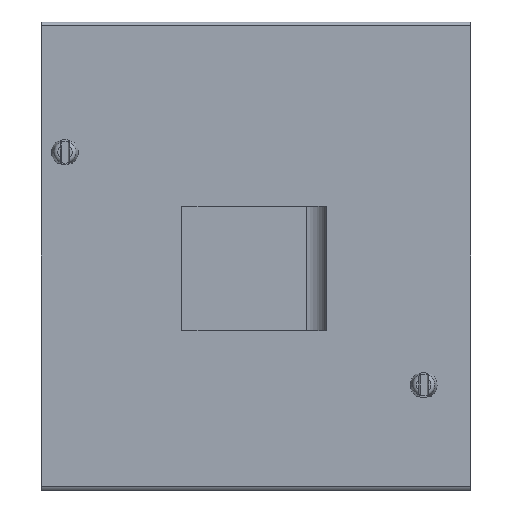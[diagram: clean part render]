
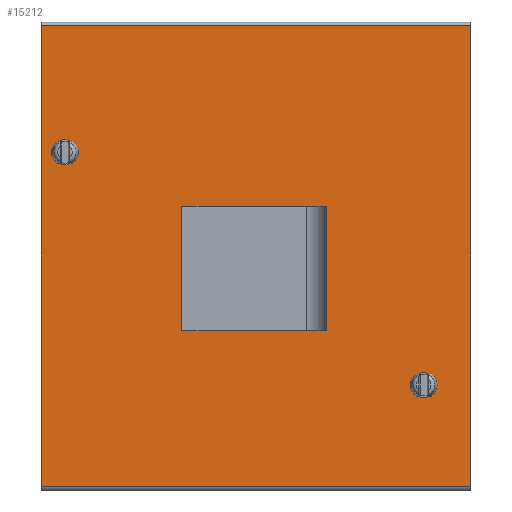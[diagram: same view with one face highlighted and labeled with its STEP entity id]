
A CAD part, front view. The second image highlights one B-rep face of the part: STEP entity #15212.
In plain terms, the highlighted planar face has unit normal (0, -1, 0).
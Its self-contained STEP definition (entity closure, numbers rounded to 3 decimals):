
#8 = CIRCLE ( 'NONE', #29682, 1.6 ) ;
#888 = EDGE_CURVE ( 'NONE', #36653, #33020, #10196, .T. ) ;
#1448 = ORIENTED_EDGE ( 'NONE', *, *, #888, .T. ) ;
#1622 = EDGE_LOOP ( 'NONE', ( #18346, #3183, #5180, #35877 ) ) ;
#1964 = EDGE_CURVE ( 'NONE', #44170, #31344, #5687, .T. ) ;
#3154 = VERTEX_POINT ( 'NONE', #31327 ) ;
#3183 = ORIENTED_EDGE ( 'NONE', *, *, #41817, .T. ) ;
#3876 = EDGE_CURVE ( 'NONE', #3154, #14674, #4245, .T. ) ;
#4226 = AXIS2_PLACEMENT_3D ( 'NONE', #32289, #28676, #15613 ) ;
#4245 = LINE ( 'NONE', #15589, #8308 ) ;
#5090 = AXIS2_PLACEMENT_3D ( 'NONE', #22644, #15885, #30511 ) ;
#5180 = ORIENTED_EDGE ( 'NONE', *, *, #42927, .F. ) ;
#5205 = CARTESIAN_POINT ( 'NONE',  ( 21.5, 0., -18.14 ) ) ;
#5687 = CIRCLE ( 'NONE', #4226, 1.6 ) ;
#7317 = DIRECTION ( 'NONE',  ( 0., 1., 0. ) ) ;
#7704 = LINE ( 'NONE', #35998, #15401 ) ;
#8308 = VECTOR ( 'NONE', #11050, 1000. ) ;
#8427 = DIRECTION ( 'NONE',  ( 1., 0., 0. ) ) ;
#9703 = DIRECTION ( 'NONE',  ( 0., 1., 0. ) ) ;
#10196 = CIRCLE ( 'NONE', #5090, 1.6 ) ;
#11028 = CARTESIAN_POINT ( 'NONE',  ( -24.5, 0., 14.9 ) ) ;
#11050 = DIRECTION ( 'NONE',  ( -1., 0., 0. ) ) ;
#11053 = CARTESIAN_POINT ( 'NONE',  ( -27.5, 0., 29.5 ) ) ;
#11800 = CARTESIAN_POINT ( 'NONE',  ( 21.5, 0., -14.94 ) ) ;
#12564 = DIRECTION ( 'NONE',  ( 0., 1., 0. ) ) ;
#12575 = ORIENTED_EDGE ( 'NONE', *, *, #15631, .T. ) ;
#14591 = CARTESIAN_POINT ( 'NONE',  ( 21.5, 0., -16.54 ) ) ;
#14674 = VERTEX_POINT ( 'NONE', #11053 ) ;
#14689 = EDGE_LOOP ( 'NONE', ( #1448, #12575 ) ) ;
#14810 = LINE ( 'NONE', #28551, #15989 ) ;
#15212 = ADVANCED_FACE ( 'NONE', ( #43928, #23417, #29956 ), #30173, .F. ) ;
#15401 = VECTOR ( 'NONE', #35774, 1000. ) ;
#15589 = CARTESIAN_POINT ( 'NONE',  ( 0., 0., 29.5 ) ) ;
#15613 = DIRECTION ( 'NONE',  ( 0., 0., 1. ) ) ;
#15631 = EDGE_CURVE ( 'NONE', #33020, #36653, #8, .T. ) ;
#15885 = DIRECTION ( 'NONE',  ( 0., 1., 0. ) ) ;
#15989 = VECTOR ( 'NONE', #8427, 1000. ) ;
#16964 = CARTESIAN_POINT ( 'NONE',  ( -24.5, 0., 13.3 ) ) ;
#17876 = AXIS2_PLACEMENT_3D ( 'NONE', #14591, #7317, #31708 ) ;
#18346 = ORIENTED_EDGE ( 'NONE', *, *, #21273, .F. ) ;
#19046 = VERTEX_POINT ( 'NONE', #39262 ) ;
#19912 = DIRECTION ( 'NONE',  ( 0., 0., 1. ) ) ;
#21273 = EDGE_CURVE ( 'NONE', #19046, #14674, #26902, .T. ) ;
#21679 = AXIS2_PLACEMENT_3D ( 'NONE', #26813, #12564, #22525 ) ;
#22525 = DIRECTION ( 'NONE',  ( 1., 0., 0. ) ) ;
#22644 = CARTESIAN_POINT ( 'NONE',  ( -24.5, 0., 13.3 ) ) ;
#23417 = FACE_BOUND ( 'NONE', #30639, .T. ) ;
#24260 = ORIENTED_EDGE ( 'NONE', *, *, #30328, .T. ) ;
#24367 = ORIENTED_EDGE ( 'NONE', *, *, #1964, .T. ) ;
#26403 = CARTESIAN_POINT ( 'NONE',  ( -24.5, 0., 11.7 ) ) ;
#26813 = CARTESIAN_POINT ( 'NONE',  ( 0., 0., 0. ) ) ;
#26902 = LINE ( 'NONE', #37294, #34786 ) ;
#27939 = CIRCLE ( 'NONE', #17876, 1.6 ) ;
#28551 = CARTESIAN_POINT ( 'NONE',  ( 0., 0., -29.5 ) ) ;
#28676 = DIRECTION ( 'NONE',  ( 0., 1., 0. ) ) ;
#29682 = AXIS2_PLACEMENT_3D ( 'NONE', #16964, #9703, #33647 ) ;
#29956 = FACE_OUTER_BOUND ( 'NONE', #1622, .T. ) ;
#30173 = PLANE ( 'NONE',  #21679 ) ;
#30328 = EDGE_CURVE ( 'NONE', #31344, #44170, #27939, .T. ) ;
#30511 = DIRECTION ( 'NONE',  ( 0., 0., 1. ) ) ;
#30639 = EDGE_LOOP ( 'NONE', ( #24260, #24367 ) ) ;
#31327 = CARTESIAN_POINT ( 'NONE',  ( 27.5, 0., 29.5 ) ) ;
#31344 = VERTEX_POINT ( 'NONE', #11800 ) ;
#31708 = DIRECTION ( 'NONE',  ( 0., 0., 1. ) ) ;
#32289 = CARTESIAN_POINT ( 'NONE',  ( 21.5, 0., -16.54 ) ) ;
#33020 = VERTEX_POINT ( 'NONE', #26403 ) ;
#33647 = DIRECTION ( 'NONE',  ( 0., 0., 1. ) ) ;
#34786 = VECTOR ( 'NONE', #19912, 1000. ) ;
#35363 = VERTEX_POINT ( 'NONE', #40344 ) ;
#35774 = DIRECTION ( 'NONE',  ( 0., 0., -1. ) ) ;
#35877 = ORIENTED_EDGE ( 'NONE', *, *, #3876, .T. ) ;
#35998 = CARTESIAN_POINT ( 'NONE',  ( 27.5, 0., 30. ) ) ;
#36653 = VERTEX_POINT ( 'NONE', #11028 ) ;
#37294 = CARTESIAN_POINT ( 'NONE',  ( -27.5, 0., 30. ) ) ;
#39262 = CARTESIAN_POINT ( 'NONE',  ( -27.5, 0., -29.5 ) ) ;
#40344 = CARTESIAN_POINT ( 'NONE',  ( 27.5, 0., -29.5 ) ) ;
#41817 = EDGE_CURVE ( 'NONE', #19046, #35363, #14810, .T. ) ;
#42927 = EDGE_CURVE ( 'NONE', #3154, #35363, #7704, .T. ) ;
#43928 = FACE_BOUND ( 'NONE', #14689, .T. ) ;
#44170 = VERTEX_POINT ( 'NONE', #5205 ) ;
